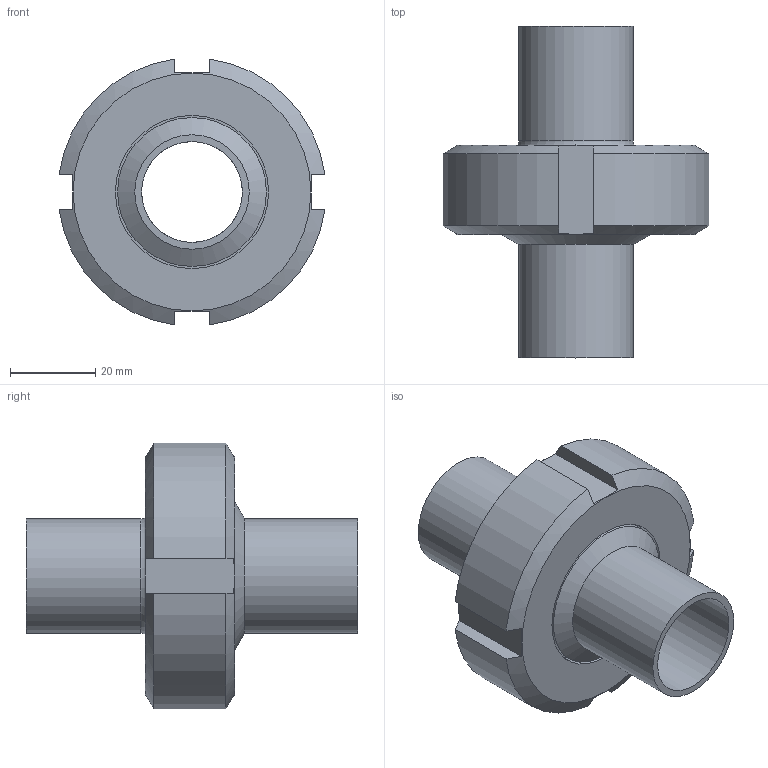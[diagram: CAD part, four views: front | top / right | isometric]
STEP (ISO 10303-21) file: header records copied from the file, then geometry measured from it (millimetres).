
FILE_DESCRIPTION(/* description */ ('Aseptik_Rohrverbindung_DIN 11864-1-A_26,9x1,6_L78'),/* implementation_level */ '2;1');
FILE_NAME(/* name */ 'L:\Normteile\N0024 - Rohrverbindungen\N0024_002 - DIN11864\N0024_002_001 - geschraubt\N0024_002_001\Step Marketing\DIN11864-1-A_26,9x1,6_L78.stp',/* time_stamp */ '2021-08-31T10:24:06+02:00',/* author */ ('Csasse'),/* organization */ ('Dockweiler AG'),/* preprocessor_version */ 'ST-DEVELOPER v18',/* originating_system */ 'Autodesk Inventor 2020',/* authorisation */ '');
FILE_SCHEMA (('AUTOMOTIVE_DESIGN { 1 0 10303 214 3 1 1 }'));
Length unit declared in the file: millimetre
Products named in the file (5): N0024_002_001_42; N0003_007_001_14; N0003_007_002_14; N0005_005_002_001_15; N0009_009_14
Assembly tree (4 placements, depth 2):
  N0024_002_001_42
    N0003_007_001_14
    N0003_007_002_14
    N0005_005_002_001_15
    N0009_009_14
Bounding box: 62.49 x 78 x 62.49 mm (x, y, z)
Volume: 62147.9 mm3; surface area: 32188.1 mm2
Topology: 4 solids, 4 shells, 60 faces, 176 edges, 128 vertices
Faces by surface type: plane 24, cylinder 14, torus 12, cone 10
Full cylindrical faces by diameter (mm): 23.7 x2, 26.9 x2, 35 x1, 36 x1, 42.9 x1, 43 x1, 47.767 x1, 52.423 x1
Entity records: 2344 total; most frequent: CARTESIAN_POINT 425, DIRECTION 402, ORIENTED_EDGE 352, AXIS2_PLACEMENT_3D 183, EDGE_CURVE 176, VERTEX_POINT 128, CIRCLE 114, EDGE_LOOP 72
